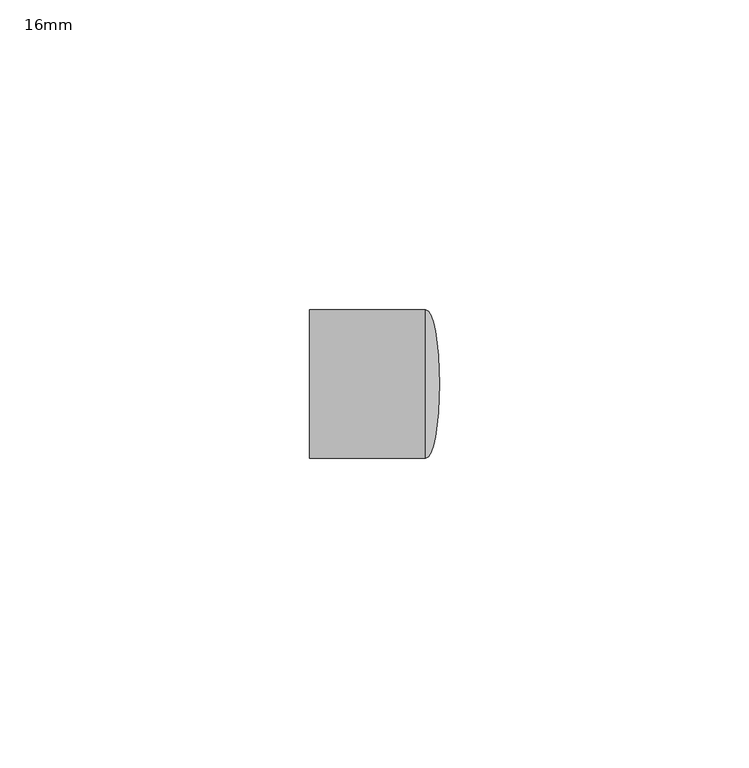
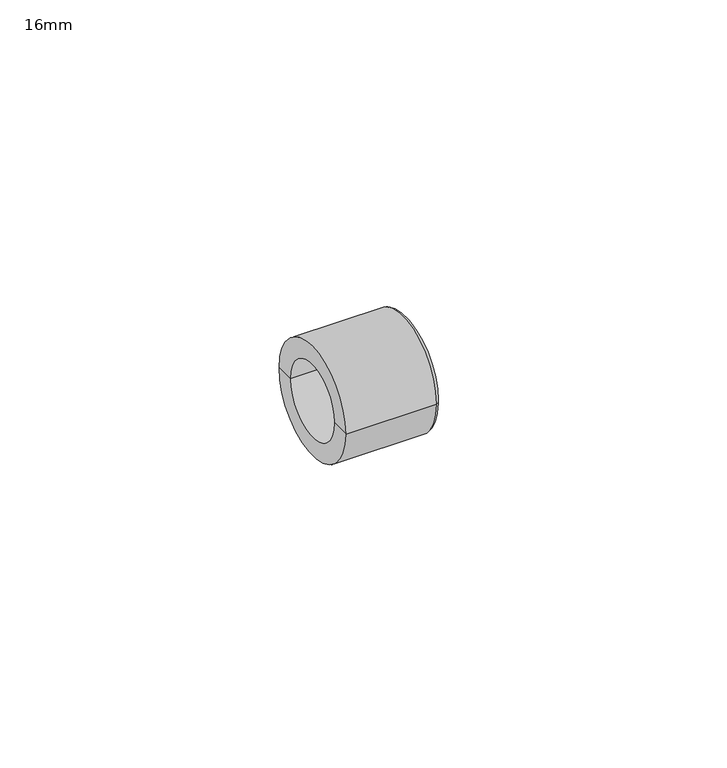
"""IFC4 building model written with IfcOpenShell, lengths in millimetres: pipe fitting geometry, PipeFitting_HTA_CPVC_Caps : 16mm."""

from ifc_helpers import new_model, si_unit, point, frame, origin, place, context, project, spatial, polyline, circle_curve, ellipse_curve, trimmed, source, transform, mapped, element, save
from ifc_brep_helpers import plane_surface, cylinder_surface, revolved_surface, advanced_brep


def pipe_fitting_16mm_d5001579(model_context):
    return source(origin(), model_context, "Body", "AdvancedBrep", [
        advanced_brep(
        [(8.25, -12.0, 0.0), (8.25, 12.0, 0.0), (10.5, 0.0, 0.0), (-10.5, -12.0, 0.0), (-10.5, 12.0, 0.0), (-10.5, -8.0, 0.0), (-10.5, 8.0, 0.0), (8.0703125, -8.0, 0.0), (8.0703125, 8.0, 0.0)],
        [
            (0, 1, circle_curve(frame((8.25, 0.0, 0.0), z_axis=(1.0, 0.0, 0.0), x_axis=(0.0, 1.0, 0.0)), 12.0)),
            (1, 2, ellipse_curve(frame((8.25, 0.0, 0.0), z_axis=(0.0, 0.0, -1.0), x_axis=(0.0, 1.0, 0.0)), 12.0, 2.25)),
            (2, 0, ellipse_curve(frame((8.25, 0.0, 0.0), z_axis=(0.0, 0.0, -1.0), x_axis=(0.0, -1.0, 0.0)), 12.0, 2.25)),
            (1, 0, circle_curve(frame((8.25, 0.0, 0.0), z_axis=(1.0, 0.0, 0.0), x_axis=(0.0, 1.0, 0.0)), 12.0)),
            (0, 3),
            (3, 4, circle_curve(frame((-10.5, 0.0, 0.0), z_axis=(1.0, 0.0, 0.0), x_axis=(0.0, 1.0, 0.0)), 12.0)),
            (4, 1),
            (4, 3, circle_curve(frame((-10.5, 0.0, 0.0), z_axis=(1.0, 0.0, 0.0), x_axis=(0.0, 1.0, 0.0)), 12.0)),
            (3, 5),
            (5, 6, circle_curve(frame((-10.5, 0.0, 0.0), z_axis=(1.0, 0.0, 0.0), x_axis=(0.0, 1.0, 0.0)), 8.0)),
            (6, 4),
            (6, 5, circle_curve(frame((-10.5, 0.0, 0.0), z_axis=(1.0, 0.0, 0.0), x_axis=(0.0, 1.0, 0.0)), 8.0)),
            (7, 8, circle_curve(frame((8.0703125, 0.0, 0.0), z_axis=(-1.0, 0.0, 0.0), x_axis=(0.0, 1.0, 0.0)), 8.0)),
            (8, 7, circle_curve(frame((8.0703125, 0.0, 0.0), z_axis=(-1.0, 0.0, 0.0), x_axis=(0.0, 1.0, 0.0)), 8.0)),
            (8, 6),
            (5, 7),
        ],
        [
            revolved_surface(trimmed(ellipse_curve(frame((8.25, 0.0, 0.0), z_axis=(0.0, 0.0, 1.0), x_axis=(0.0, 1.0, 0.0)), 12.0, 2.25), [point((10.5, 0.0, 0.0))], [point((8.25, 12.0, 0.0))], True, "CARTESIAN"), (-380.0, 0.0, 0.0), (-1.0, 0.0, 0.0)),
            cylinder_surface(frame((-380.0, 0.0, 0.0), z_axis=(-1.0, 0.0, 0.0), x_axis=(0.0, 1.0, 0.0)), 12.0),
            plane_surface(frame((-10.5, 0.0, 0.0), z_axis=(-1.0, 0.0, 0.0), x_axis=(0.0, 1.0, 0.0))),
            plane_surface(frame((8.0703125, 8.0, 0.0), z_axis=(-1.0, 0.0, 0.0), x_axis=(0.0, 0.0, 1.0))),
            revolved_surface(polyline([(8.0703125, 8.0, 0.0), (-10.5, 8.0, 0.0)]), (-10.5, 0.0, 0.0), (1.0, 0.0, 0.0)),
        ],
        [
            (0, [[1, 2, 3]]),
            (0, [[-2, 4, -3]]),
            (1, [[-1, 5, 6, 7]]),
            (1, [[-4, -7, 8, -5]]),
            (2, [[-6, 9, 10, 11]]),
            (2, [[-8, -11, 12, -9]]),
            (3, [[13, 14]]),
            (4, [[-14, 15, -10, 16]]),
            (4, [[-13, -16, -12, -15]]),
        ],
    ),
    ])


if __name__ == "__main__":
    model = new_model("IFC4")
    model_context = context("Model", 3, world=origin())
    ifc_project = project(units=[si_unit("LENGTHUNIT", "METRE", prefix="MILLI")], contexts=[model_context])
    site = spatial("IfcSite", under=ifc_project)
    building = spatial("IfcBuilding", under=site)
    placement = place(None, origin())
    pipe_fitting_16mm_shape = pipe_fitting_16mm_d5001579(model_context)
    element("IfcPipeFitting", 1, ObjectType="PipeFitting_HTA_CPVC_Caps : 16mm", at=placement, inside=building, context=model_context, shape_type="MappedRepresentation", body=[
        mapped(pipe_fitting_16mm_shape, transform((0.0, 0.0, 0.0), x_axis=(1.0, 0.0, 0.0), y_axis=(0.0, 1.0, 0.0), z_axis=(0.0, 0.0, 1.0))),
    ])
    save(model, "model.ifc")
